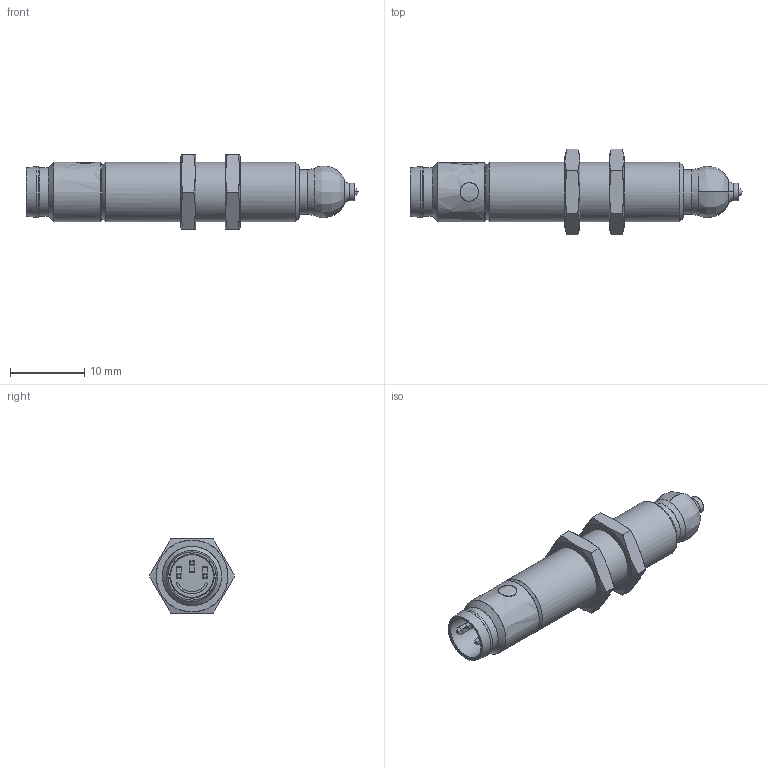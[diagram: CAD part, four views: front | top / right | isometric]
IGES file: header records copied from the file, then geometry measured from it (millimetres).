
Start section: C
Global section: file name: MY COM_M_S35L.igs; native system: By Siemens PLM Incorporated; preprocessor: XPlus GENERIC/IGES 19.0.9; author: Author; organization: Title; date: 20180725.180958; units: millimetre
Bounding box: 44.81 x 11.55 x 10 mm (x, y, z)
Surface area: 1701.7 mm2 (no closed solid volume)
Topology: 0 solids, 0 shells, 116 faces, 645 edges, 643 vertices
Faces by surface type: bspline 116
